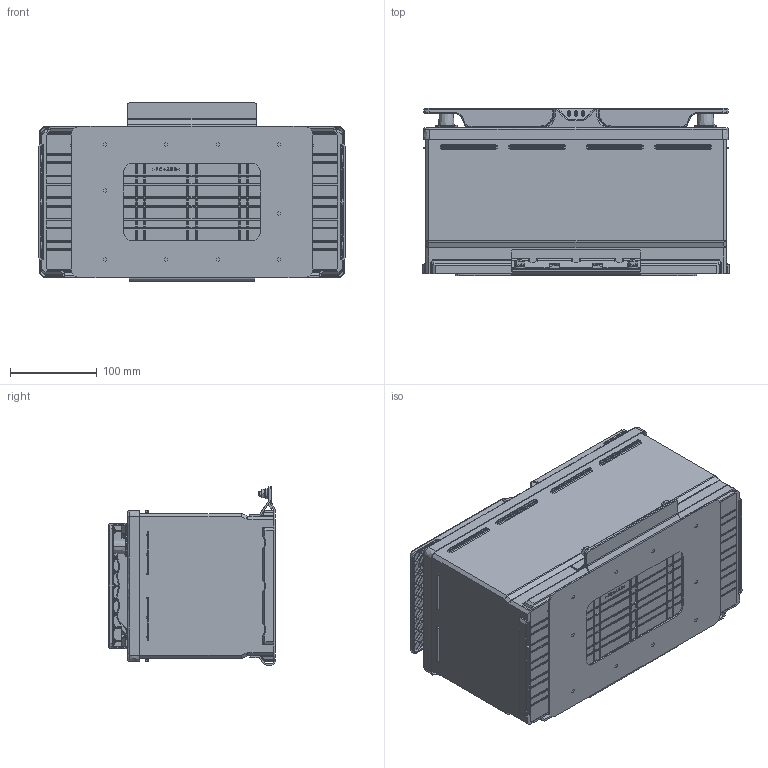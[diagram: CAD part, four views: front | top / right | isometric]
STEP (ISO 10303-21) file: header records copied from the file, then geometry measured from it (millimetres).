
FILE_DESCRIPTION (( 'STEP AP214' ), '1' );
FILE_NAME ('Epsilon150Ah_19-04-2023.STEP', '2023-04-19T08:03:53', ( '' ), ( '' ), 'SwSTEP 2.0', 'SolidWorks 2021', '' );
FILE_SCHEMA (( 'AUTOMOTIVE_DESIGN' ));
Length unit declared in the file: millimetre
Products named in the file (1): Epsilon150Ah_19-04-2023
Bounding box: 352.2 x 191.8 x 205 mm (x, y, z)
Volume: 10262513.5 mm3; surface area: 623905.4 mm2
Topology: 5 solids, 5 shells, 11825 faces, 28699 edges, 16492 vertices
Faces by surface type: cylinder 5274, plane 2952, sphere 1865, bspline 1498, cone 150, torus 86
Entity records: 573745 total; most frequent: CARTESIAN_POINT 230724, ORIENTED_EDGE 55908, EDGE_CURVE 27954, DIRECTION 27479, B_SPLINE_CURVE_WITH_KNOTS 22033, VERTEX_POINT 16458, AXIS2_PLACEMENT_3D 12285, EDGE_LOOP 12208
